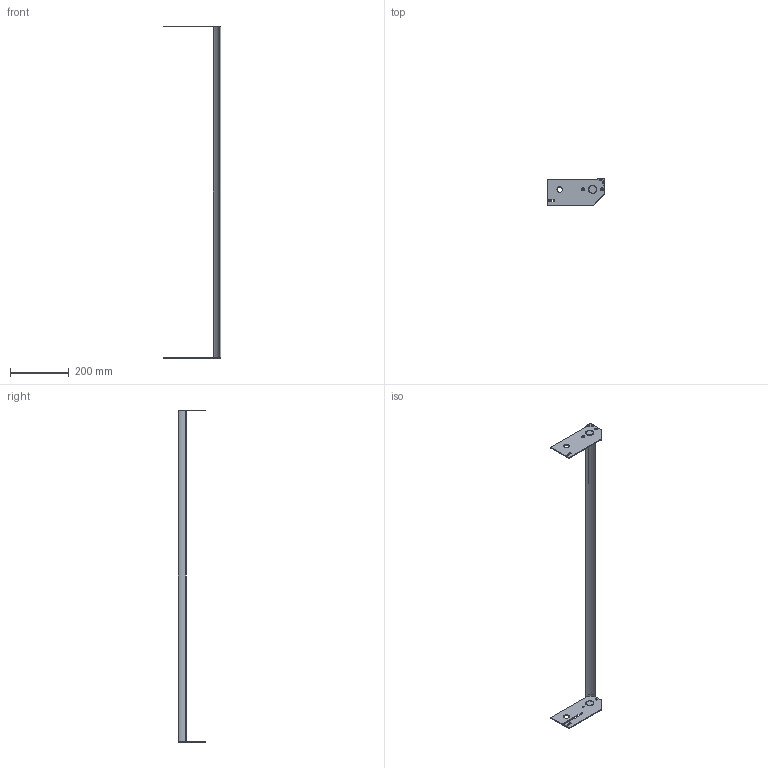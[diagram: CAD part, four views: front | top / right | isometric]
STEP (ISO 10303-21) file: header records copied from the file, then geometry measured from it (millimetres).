
FILE_DESCRIPTION((''),'2;1');
FILE_NAME('351040-44_ASM','2023-03-15T',('jenni.wallner'),(''),'PRO/ENGINEER BY PARAMETRIC TECHNOLOGY CORPORATION, 2012420','PRO/ENGINEER BY PARAMETRIC TECHNOLOGY CORPORATION, 2012420','');
FILE_SCHEMA(('CONFIG_CONTROL_DESIGN'));
Length unit declared in the file: inch
Products named in the file (6): 9304XXM_930410M; 350538; 350539-WW_350539-44; 350537; ASM0001_ASM; 351040-44_ASM
Assembly tree (8 placements, depth 3):
  351040-44_ASM
    ASM0001_ASM
      9304XXM_930410M  x4
      350538
      350539-WW_350539-44
      350537
Bounding box: 196.06 x 92.74 x 1129.94 mm (x, y, z)
Volume: 416333.4 mm3; surface area: 193817 mm2
Topology: 7 solids, 7 shells, 216 faces, 536 edges, 334 vertices
Faces by surface type: cylinder 80, plane 76, cone 60
Entity records: 4972 total; most frequent: CARTESIAN_POINT 908, DIRECTION 885, ORIENTED_EDGE 790, EDGE_CURVE 395, AXIS2_PLACEMENT_3D 339, VERTEX_POINT 256, VECTOR 207, LINE 207
